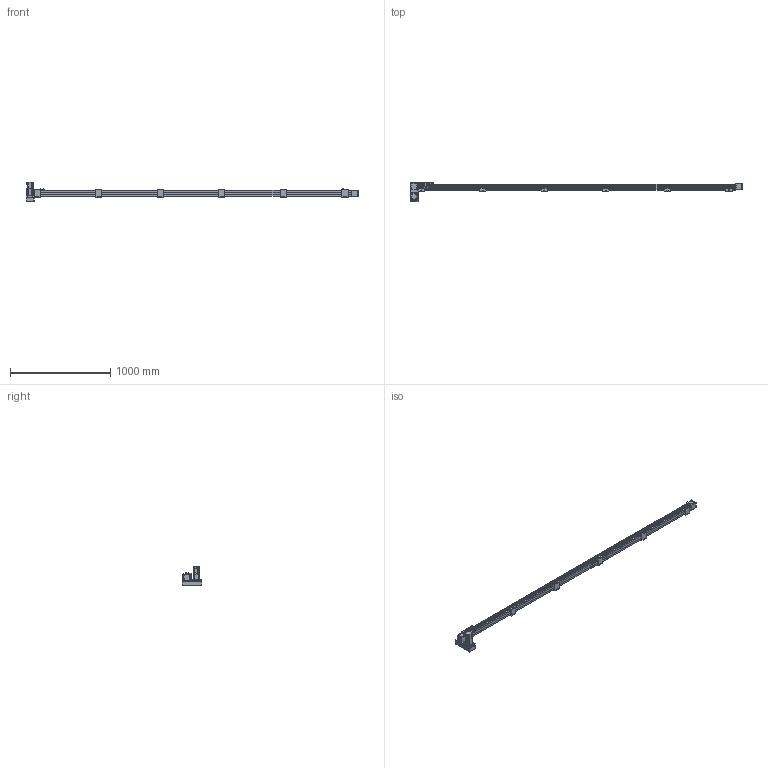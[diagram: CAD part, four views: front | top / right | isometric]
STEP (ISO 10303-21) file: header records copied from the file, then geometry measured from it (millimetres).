
FILE_DESCRIPTION(/* description */ ('STEP AP214'),/* implementation_level */ '2;1');
FILE_NAME(/* name */ 'SK60-P13-S3000-LD-T40-C1-N(0)',/* time_stamp */ '2023-04-06T04:40:22+02:00',/* author */ ('License CC BY-ND 4.0'),/* organization */ ('CADENAS'),/* preprocessor_version */ 'ST-DEVELOPER v19.3',/* originating_system */ 'PARTsolutions',/* authorisation */ ' ');
FILE_SCHEMA (('AUTOMOTIVE_DESIGN {1 0 10303 214 3 1 1}'));
Length unit declared in the file: millimetre
Products named in the file (10): SK60-P13-S3000-LD-T40-C1-N(0); PSC140-sensor; SK60-S450_seat; SK60-S450-BL-C1_slider; SK60_body3; SK60_body6; SK60-BL_body2; T40-p1; SK60-LD_fb; SK60-S3000-LD-C1_body
Assembly tree (20 placements, depth 2):
  SK60-P13-S3000-LD-T40-C1-N(0)
    PSC140-sensor  x3
    SK60-S450_seat  x6
    SK60-S450-BL-C1_slider
    SK60_body3  x3
    SK60_body6  x2
    SK60-BL_body2  x2
    T40-p1
    SK60-LD_fb
    SK60-S3000-LD-C1_body
Bounding box: 3305.5 x 199 x 189.7 mm (x, y, z)
Volume: 12390566.9 mm3; surface area: 1442235.2 mm2
Topology: 20 solids, 20 shells, 986 faces, 2440 edges, 1605 vertices
Faces by surface type: plane 620, cylinder 326, cone 38, torus 2
Full cylindrical faces by diameter (mm): 2.8 x3, 3.3 x4, 4 x2, 4.5 x30, 4.6 x3, 4.917 x32, 5 x6, 5.478 x4, 5.5 x35, 6.5 x12, 7 x2, 8 x4, 8.5 x4, 9.988 x4, 10 x24, 14 x1, 47 x3, 50 x2
Entity records: 18687 total; most frequent: DIRECTION 3192, CARTESIAN_POINT 3154, ORIENTED_EDGE 2940, EDGE_CURVE 1470, AXIS2_PLACEMENT_3D 1072, LINE 1048, VECTOR 1048, VERTEX_POINT 1034
